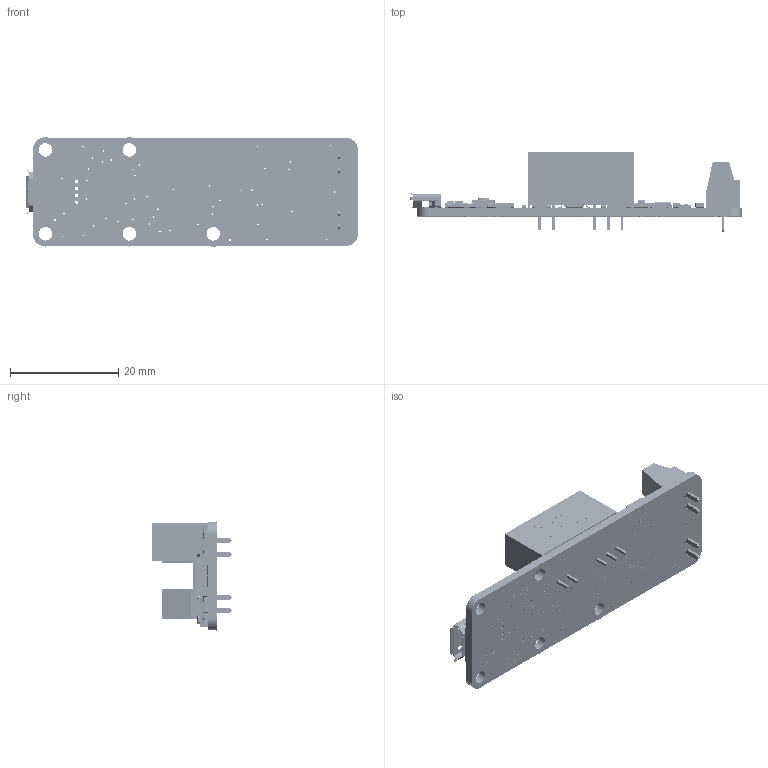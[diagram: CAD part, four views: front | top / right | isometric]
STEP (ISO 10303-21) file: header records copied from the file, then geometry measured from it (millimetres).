
FILE_DESCRIPTION (( 'STEP AP214' ), '1' );
FILE_NAME ('TX010V01.STEP', '2017-08-02T09:10:50', ( 'martinm' ), ( '' ), 'SwSTEP 2.0', 'SolidWorks 2008', '' );
FILE_SCHEMA (( 'AUTOMOTIVE_DESIGN' ));
Length unit declared in the file: millimetre
Products named in the file (44): PCB; A1; Alim1; C2; C14; C15; C16; C17; C18; C20; C21; C22; C24; C25; C48; D2; DAC1; IC1; L1; P3; PVSS; R1; R2; R3; R13; R16; R17; R18; R19; R21; R22; R23; R25; R26; REG1; SW1; U1; USB1; YLED; c13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
Assembly tree (69 placements, depth 2):
  PVSS
  TX010V01
    C14
    C15  x2
    C48  x2
    L1
    R23  x2
    R21  x2
    PCB
    C21  x2
    R3
    R16  x4
    YLED
    D2  x2
    R17  x5
    c23
    C20  x7
    R19  x2
    R26  x2
    A1
    C17
    P3  x2
    R22  x2
    C25  x2
    C22  x2
    DAC1
    IC1
    REG1
    sens1
    USB1
    C2
    U1
    C16
    R1
    R2
    R25  x2
    C24  x2
    C18
    R18
    Alim1
    c13
    SW1
    R13
    reg3
Bounding box: 61.35 x 14.61 x 20.24 mm (x, y, z)
Volume: 3892.5 mm3; surface area: 5401.9 mm2
Topology: 87 solids, 87 shells, 8154 faces, 20920 edges, 13436 vertices
Faces by surface type: plane 5056, cylinder 1938, bspline 929, sphere 224, torus 7
Entity records: 297805 total; most frequent: CARTESIAN_POINT 78697, ORIENTED_EDGE 33196, DIRECTION 29897, EDGE_CURVE 16598, VECTOR 11925, LINE 11925, VERTEX_POINT 10861, AXIS2_PLACEMENT_3D 8986
